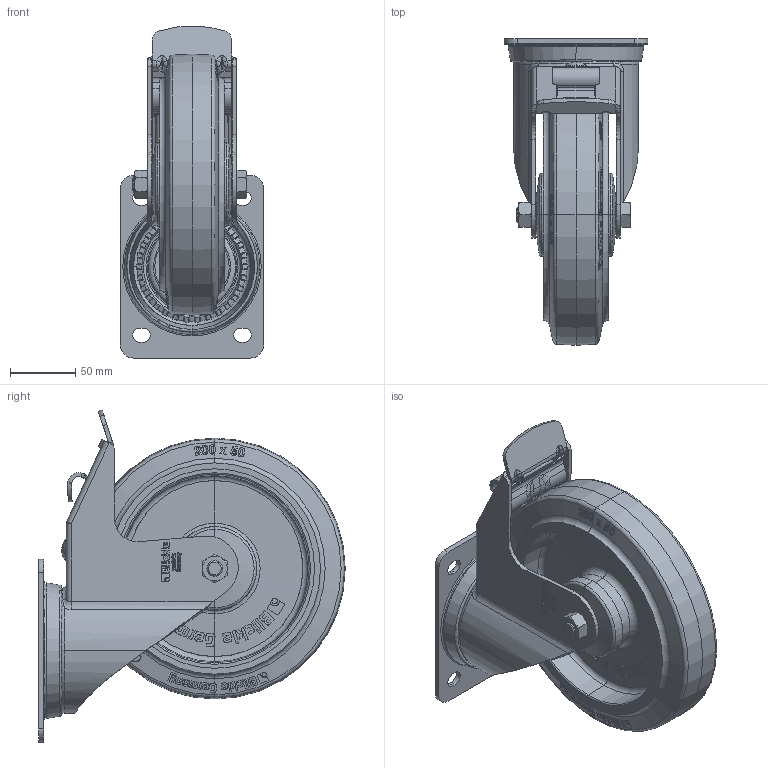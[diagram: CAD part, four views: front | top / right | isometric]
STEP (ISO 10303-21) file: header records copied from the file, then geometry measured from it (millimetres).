
FILE_DESCRIPTION (( 'STEP AP214' ), '1' );
FILE_NAME ('L-POEV_200K-FI-SB_678854-214.step', '2021-12-22T13:06:36', ( '' ), ( '' ), 'SwSTEP 2.0', 'SolidWorks 2018', '' );
FILE_SCHEMA (( 'AUTOMOTIVE_DESIGN' ));
Length unit declared in the file: millimetre
Products named in the file (5): POEV_200_3D_G16_POEV_200_12K-SB_905330; GH-L_175-200_GH-L-200x60-03-FIW_12x62; POEV_200_12K-SB_G16_3D; L-POEV_200K-FI-SB_678854-214; GH-L-200x60-03-FIW_12x62_G16_3D
Assembly tree (4 placements, depth 3):
  L-POEV_200K-FI-SB_678854-214
    GH-L_175-200_GH-L-200x60-03-FIW_12x62
      GH-L-200x60-03-FIW_12x62_G16_3D
    POEV_200_3D_G16_POEV_200_12K-SB_905330
      POEV_200_12K-SB_G16_3D
Bounding box: 110 x 235 x 254.56 mm (x, y, z)
Volume: 1128397.7 mm3; surface area: 296299.9 mm2
Topology: 2 solids, 10 shells, 4785 faces, 12999 edges, 8462 vertices
Faces by surface type: bspline 1903, plane 1876, cone 422, cylinder 291, torus 287, sphere 6
Entity records: 240441 total; most frequent: CARTESIAN_POINT 99572, ORIENTED_EDGE 25990, DIRECTION 13961, EDGE_CURVE 12995, VERTEX_POINT 8462, B_SPLINE_CURVE_WITH_KNOTS 6170, LINE 5309, VECTOR 5309
